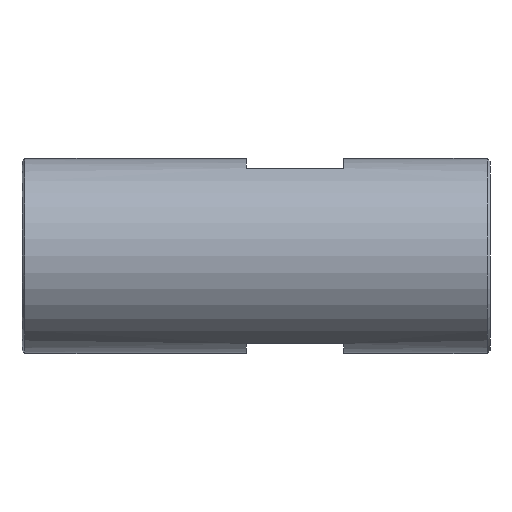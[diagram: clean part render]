
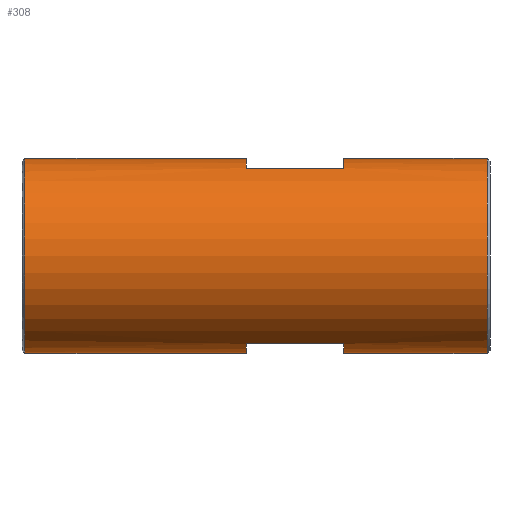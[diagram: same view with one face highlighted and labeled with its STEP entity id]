
A CAD part, left-side view. The second image highlights one B-rep face of the part: STEP entity #308.
In plain terms, the highlighted cylindrical face has radius 10 mm (diameter 20 mm), a partial arc.
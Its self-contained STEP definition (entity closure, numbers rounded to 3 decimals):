
#12 = DIRECTION ( 'NONE',  ( 0., -1., 0. ) ) ;
#42 = VERTEX_POINT ( 'NONE', #691 ) ;
#48 = ORIENTED_EDGE ( 'NONE', *, *, #232, .T. ) ;
#53 = EDGE_CURVE ( 'NONE', #42, #207, #204, .T. ) ;
#57 = EDGE_CURVE ( 'NONE', #584, #628, #616, .T. ) ;
#62 = ORIENTED_EDGE ( 'NONE', *, *, #214, .F. ) ;
#63 = LINE ( 'NONE', #653, #176 ) ;
#64 = AXIS2_PLACEMENT_3D ( 'NONE', #305, #241, #714 ) ;
#68 = DIRECTION ( 'NONE',  ( 0., 0., -1. ) ) ;
#77 = LINE ( 'NONE', #86, #582 ) ;
#79 = EDGE_CURVE ( 'NONE', #372, #707, #465, .T. ) ;
#86 = CARTESIAN_POINT ( 'NONE',  ( 0., 48., -10. ) ) ;
#101 = AXIS2_PLACEMENT_3D ( 'NONE', #544, #12, #622 ) ;
#123 = VECTOR ( 'NONE', #617, 1000. ) ;
#125 = VERTEX_POINT ( 'NONE', #470 ) ;
#145 = CARTESIAN_POINT ( 'NONE',  ( -4.359, 25., -9. ) ) ;
#155 = DIRECTION ( 'NONE',  ( 0., 1., 0. ) ) ;
#156 = ORIENTED_EDGE ( 'NONE', *, *, #486, .F. ) ;
#160 = DIRECTION ( 'NONE',  ( 0., 0., 1. ) ) ;
#176 = VECTOR ( 'NONE', #656, 1000. ) ;
#187 = LINE ( 'NONE', #739, #123 ) ;
#204 = CIRCLE ( 'NONE', #395, 10. ) ;
#207 = VERTEX_POINT ( 'NONE', #598 ) ;
#214 = EDGE_CURVE ( 'NONE', #529, #294, #392, .T. ) ;
#226 = CIRCLE ( 'NONE', #451, 10. ) ;
#228 = ORIENTED_EDGE ( 'NONE', *, *, #504, .T. ) ;
#232 = EDGE_CURVE ( 'NONE', #42, #704, #63, .T. ) ;
#240 = CARTESIAN_POINT ( 'NONE',  ( 0., 48., 0. ) ) ;
#241 = DIRECTION ( 'NONE',  ( 0., -1., 0. ) ) ;
#251 = LINE ( 'NONE', #611, #595 ) ;
#261 = AXIS2_PLACEMENT_3D ( 'NONE', #240, #654, #68 ) ;
#278 = CARTESIAN_POINT ( 'NONE',  ( 0., 0.3, 0. ) ) ;
#281 = CARTESIAN_POINT ( 'NONE',  ( -4.359, 48., -9. ) ) ;
#284 = CARTESIAN_POINT ( 'NONE',  ( 0., 25., -10. ) ) ;
#292 = ORIENTED_EDGE ( 'NONE', *, *, #521, .F. ) ;
#294 = VERTEX_POINT ( 'NONE', #284 ) ;
#305 = CARTESIAN_POINT ( 'NONE',  ( 0., 25., 0. ) ) ;
#308 = ADVANCED_FACE ( 'NONE', ( #719 ), #759, .T. ) ;
#321 = DIRECTION ( 'NONE',  ( 0., -1., 0. ) ) ;
#325 = CARTESIAN_POINT ( 'NONE',  ( 0., 25., 10. ) ) ;
#327 = CARTESIAN_POINT ( 'NONE',  ( -4.359, 15., 9. ) ) ;
#340 = EDGE_CURVE ( 'NONE', #704, #125, #226, .T. ) ;
#347 = EDGE_LOOP ( 'NONE', ( #657, #635, #562, #62, #156, #503, #48, #659, #541, #228, #292, #705 ) ) ;
#348 = LINE ( 'NONE', #281, #453 ) ;
#349 = DIRECTION ( 'NONE',  ( 0., 0., 1. ) ) ;
#372 = VERTEX_POINT ( 'NONE', #716 ) ;
#392 = CIRCLE ( 'NONE', #64, 10. ) ;
#395 = AXIS2_PLACEMENT_3D ( 'NONE', #448, #512, #160 ) ;
#441 = CIRCLE ( 'NONE', #101, 10. ) ;
#448 = CARTESIAN_POINT ( 'NONE',  ( 0., 15., 0. ) ) ;
#451 = AXIS2_PLACEMENT_3D ( 'NONE', #278, #155, #349 ) ;
#453 = VECTOR ( 'NONE', #639, 1000. ) ;
#458 = VERTEX_POINT ( 'NONE', #701 ) ;
#461 = DIRECTION ( 'NONE',  ( 0., -1., 0. ) ) ;
#464 = DIRECTION ( 'NONE',  ( 0., 0., 1. ) ) ;
#465 = CIRCLE ( 'NONE', #590, 10. ) ;
#466 = AXIS2_PLACEMENT_3D ( 'NONE', #526, #710, #708 ) ;
#470 = CARTESIAN_POINT ( 'NONE',  ( 0., 0.3, 10. ) ) ;
#483 = LINE ( 'NONE', #678, #499 ) ;
#486 = EDGE_CURVE ( 'NONE', #207, #529, #348, .T. ) ;
#499 = VECTOR ( 'NONE', #556, 1000. ) ;
#503 = ORIENTED_EDGE ( 'NONE', *, *, #53, .F. ) ;
#504 = EDGE_CURVE ( 'NONE', #458, #669, #441, .T. ) ;
#512 = DIRECTION ( 'NONE',  ( 0., 1., 0. ) ) ;
#521 = EDGE_CURVE ( 'NONE', #584, #669, #483, .T. ) ;
#526 = CARTESIAN_POINT ( 'NONE',  ( 0., 25., 0. ) ) ;
#529 = VERTEX_POINT ( 'NONE', #145 ) ;
#541 = ORIENTED_EDGE ( 'NONE', *, *, #672, .F. ) ;
#544 = CARTESIAN_POINT ( 'NONE',  ( 0., 15., 0. ) ) ;
#555 = CARTESIAN_POINT ( 'NONE',  ( -4.359, 25., 9. ) ) ;
#556 = DIRECTION ( 'NONE',  ( 0., -1., 0. ) ) ;
#562 = ORIENTED_EDGE ( 'NONE', *, *, #689, .T. ) ;
#582 = VECTOR ( 'NONE', #321, 1000. ) ;
#584 = VERTEX_POINT ( 'NONE', #555 ) ;
#590 = AXIS2_PLACEMENT_3D ( 'NONE', #644, #461, #464 ) ;
#595 = VECTOR ( 'NONE', #670, 1000. ) ;
#598 = CARTESIAN_POINT ( 'NONE',  ( -4.359, 15., -9. ) ) ;
#607 = CARTESIAN_POINT ( 'NONE',  ( 0., 47.7, -10. ) ) ;
#611 = CARTESIAN_POINT ( 'NONE',  ( 0., 48., 10. ) ) ;
#614 = EDGE_CURVE ( 'NONE', #372, #628, #187, .T. ) ;
#616 = CIRCLE ( 'NONE', #466, 10. ) ;
#617 = DIRECTION ( 'NONE',  ( 0., -1., 0. ) ) ;
#622 = DIRECTION ( 'NONE',  ( 0., 0., -1. ) ) ;
#628 = VERTEX_POINT ( 'NONE', #325 ) ;
#635 = ORIENTED_EDGE ( 'NONE', *, *, #79, .T. ) ;
#639 = DIRECTION ( 'NONE',  ( 0., 1., 0. ) ) ;
#644 = CARTESIAN_POINT ( 'NONE',  ( 0., 47.7, 0. ) ) ;
#653 = CARTESIAN_POINT ( 'NONE',  ( 0., 48., -10. ) ) ;
#654 = DIRECTION ( 'NONE',  ( 0., -1., 0. ) ) ;
#656 = DIRECTION ( 'NONE',  ( 0., -1., 0. ) ) ;
#657 = ORIENTED_EDGE ( 'NONE', *, *, #614, .F. ) ;
#659 = ORIENTED_EDGE ( 'NONE', *, *, #340, .T. ) ;
#664 = CARTESIAN_POINT ( 'NONE',  ( 0., 0.3, -10. ) ) ;
#669 = VERTEX_POINT ( 'NONE', #327 ) ;
#670 = DIRECTION ( 'NONE',  ( 0., -1., 0. ) ) ;
#672 = EDGE_CURVE ( 'NONE', #458, #125, #251, .T. ) ;
#678 = CARTESIAN_POINT ( 'NONE',  ( -4.359, 48., 9. ) ) ;
#689 = EDGE_CURVE ( 'NONE', #707, #294, #77, .T. ) ;
#691 = CARTESIAN_POINT ( 'NONE',  ( 0., 15., -10. ) ) ;
#701 = CARTESIAN_POINT ( 'NONE',  ( 0., 15., 10. ) ) ;
#704 = VERTEX_POINT ( 'NONE', #664 ) ;
#705 = ORIENTED_EDGE ( 'NONE', *, *, #57, .T. ) ;
#707 = VERTEX_POINT ( 'NONE', #607 ) ;
#708 = DIRECTION ( 'NONE',  ( 0., 0., 1. ) ) ;
#710 = DIRECTION ( 'NONE',  ( 0., 1., 0. ) ) ;
#714 = DIRECTION ( 'NONE',  ( 0., 0., -1. ) ) ;
#716 = CARTESIAN_POINT ( 'NONE',  ( 0., 47.7, 10. ) ) ;
#719 = FACE_OUTER_BOUND ( 'NONE', #347, .T. ) ;
#739 = CARTESIAN_POINT ( 'NONE',  ( 0., 48., 10. ) ) ;
#759 = CYLINDRICAL_SURFACE ( 'NONE', #261, 10. ) ;
